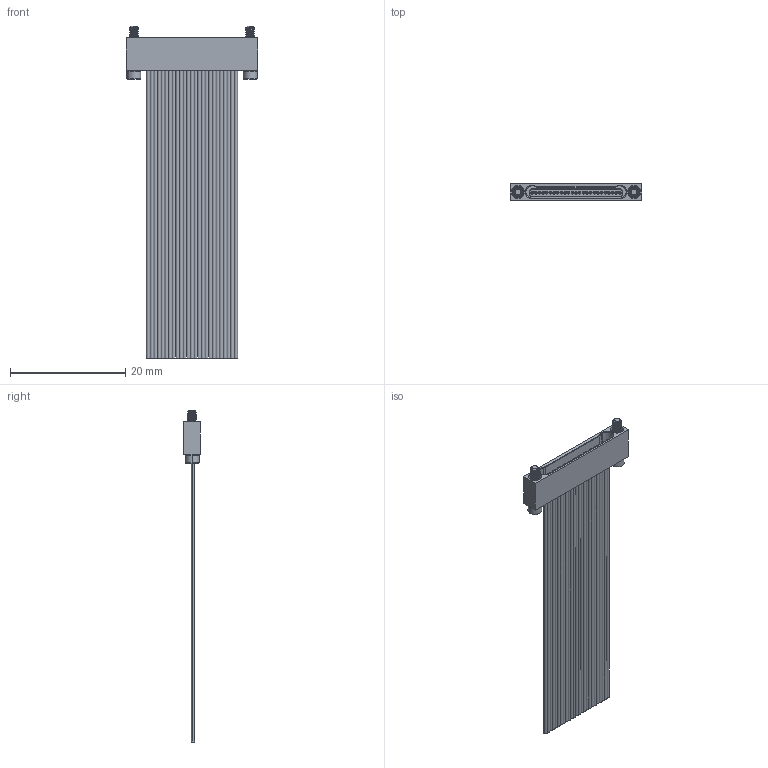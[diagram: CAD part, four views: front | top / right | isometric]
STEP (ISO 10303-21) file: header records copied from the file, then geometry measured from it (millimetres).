
FILE_DESCRIPTION (( 'STEP AP214' ), '1' );
FILE_NAME ('A55000-125 REV C.STEP', '2017-07-26T18:48:15', ( '' ), ( '' ), 'SwSTEP 2.0', 'SolidWorks 2016', '' );
FILE_SCHEMA (( 'AUTOMOTIVE_DESIGN' ));
Length unit declared in the file: inch
Products named in the file (1): A55000-125 REV C
Bounding box: 22.86 x 2.93 x 57.7 mm (x, y, z)
Volume: 663.5 mm3; surface area: 3435.9 mm2
Topology: 1 solids, 26 shells, 945 faces, 2086 edges, 1326 vertices
Faces by surface type: cylinder 422, plane 316, torus 116, bspline 54, cone 37
Entity records: 31582 total; most frequent: CARTESIAN_POINT 10250, DIRECTION 4700, ORIENTED_EDGE 4172, EDGE_CURVE 2086, AXIS2_PLACEMENT_3D 1910, VERTEX_POINT 1326, EDGE_LOOP 1128, CIRCLE 1018
